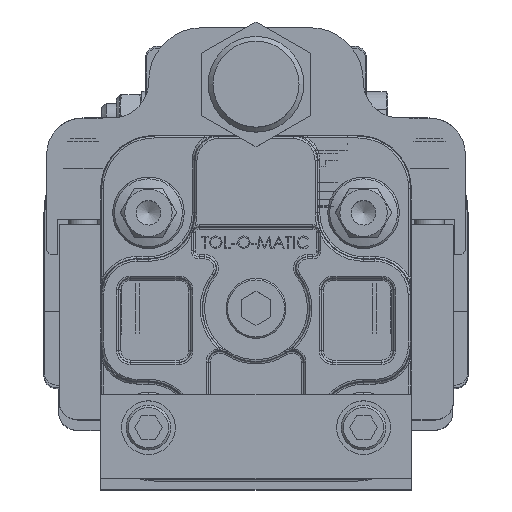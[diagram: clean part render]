
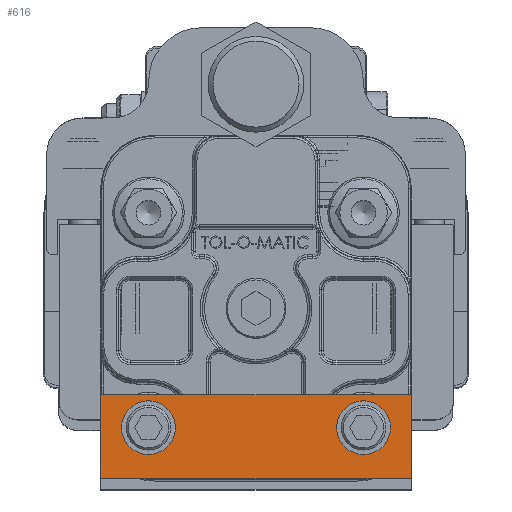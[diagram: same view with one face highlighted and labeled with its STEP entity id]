
A CAD part, top view. The second image highlights one B-rep face of the part: STEP entity #616.
In plain terms, the highlighted planar face has unit normal (0, 0, 1) as drawn and (0, 0, -1) by its records, which use the part's own axes.
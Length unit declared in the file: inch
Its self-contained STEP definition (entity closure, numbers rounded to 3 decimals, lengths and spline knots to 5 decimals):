
#616 = ADVANCED_FACE ( 'NONE', ( #25922, #11386, #16616 ), #11988, .T. ) ;
#1006 = DIRECTION ( 'NONE',  ( -1., 0., 0. ) ) ;
#2084 = DIRECTION ( 'NONE',  ( -1., 0., 0. ) ) ;
#2395 = CARTESIAN_POINT ( 'NONE',  ( 1.625, -0.531, -1. ) ) ;
#2949 = AXIS2_PLACEMENT_3D ( 'NONE', #28576, #39099, #1006 ) ;
#3477 = DIRECTION ( 'NONE',  ( -1., 0., 0. ) ) ;
#4117 = ORIENTED_EDGE ( 'NONE', *, *, #28281, .F. ) ;
#7229 = ORIENTED_EDGE ( 'NONE', *, *, #20912, .T. ) ;
#7257 = CARTESIAN_POINT ( 'NONE',  ( 1.625, 0.344, -1. ) ) ;
#7360 = VECTOR ( 'NONE', #28064, 39.37008 ) ;
#8402 = VERTEX_POINT ( 'NONE', #55516 ) ;
#9170 = CARTESIAN_POINT ( 'NONE',  ( 1.625, 0.344, -1. ) ) ;
#11386 = FACE_BOUND ( 'NONE', #12075, .T. ) ;
#11988 = PLANE ( 'NONE',  #37659 ) ;
#12075 = EDGE_LOOP ( 'NONE', ( #4117 ) ) ;
#13039 = CARTESIAN_POINT ( 'NONE',  ( 1.125, 0., -1. ) ) ;
#14380 = DIRECTION ( 'NONE',  ( 0., 1., 0. ) ) ;
#14543 = ORIENTED_EDGE ( 'NONE', *, *, #52373, .T. ) ;
#15233 = ORIENTED_EDGE ( 'NONE', *, *, #60843, .F. ) ;
#15322 = EDGE_LOOP ( 'NONE', ( #15233 ) ) ;
#15662 = ORIENTED_EDGE ( 'NONE', *, *, #24105, .T. ) ;
#16616 = FACE_OUTER_BOUND ( 'NONE', #26007, .T. ) ;
#16722 = VERTEX_POINT ( 'NONE', #30693 ) ;
#20912 = EDGE_CURVE ( 'NONE', #56050, #30574, #47841, .T. ) ;
#21479 = LINE ( 'NONE', #7257, #54092 ) ;
#22028 = CARTESIAN_POINT ( 'NONE',  ( 1.625, -0.531, -1. ) ) ;
#24105 = EDGE_CURVE ( 'NONE', #30574, #42644, #21479, .T. ) ;
#25298 = CARTESIAN_POINT ( 'NONE',  ( -1.625, -0.531, -1. ) ) ;
#25922 = FACE_BOUND ( 'NONE', #15322, .T. ) ;
#26007 = EDGE_LOOP ( 'NONE', ( #32857, #14543, #7229, #15662 ) ) ;
#28064 = DIRECTION ( 'NONE',  ( 0., -1., 0. ) ) ;
#28281 = EDGE_CURVE ( 'NONE', #8402, #8402, #56809, .T. ) ;
#28370 = LINE ( 'NONE', #9170, #7360 ) ;
#28576 = CARTESIAN_POINT ( 'NONE',  ( -1.125, 0., -1. ) ) ;
#28612 = CIRCLE ( 'NONE', #2949, 0.28125 ) ;
#28622 = EDGE_CURVE ( 'NONE', #42644, #16722, #28370, .T. ) ;
#30381 = VECTOR ( 'NONE', #31936, 39.37008 ) ;
#30574 = VERTEX_POINT ( 'NONE', #59139 ) ;
#30693 = CARTESIAN_POINT ( 'NONE',  ( 1.625, -0.531, -1. ) ) ;
#31335 = LINE ( 'NONE', #22028, #30381 ) ;
#31936 = DIRECTION ( 'NONE',  ( -1., 0., 0. ) ) ;
#32857 = ORIENTED_EDGE ( 'NONE', *, *, #28622, .T. ) ;
#34883 = CARTESIAN_POINT ( 'NONE',  ( 1.625, 0.344, -1. ) ) ;
#35135 = VERTEX_POINT ( 'NONE', #54062 ) ;
#37620 = CARTESIAN_POINT ( 'NONE',  ( -1.625, 0.344, -1. ) ) ;
#37659 = AXIS2_PLACEMENT_3D ( 'NONE', #2395, #44513, #2084 ) ;
#39099 = DIRECTION ( 'NONE',  ( 0., 0., -1. ) ) ;
#39973 = AXIS2_PLACEMENT_3D ( 'NONE', #13039, #45899, #3477 ) ;
#42644 = VERTEX_POINT ( 'NONE', #34883 ) ;
#44513 = DIRECTION ( 'NONE',  ( 0., 0., -1. ) ) ;
#45899 = DIRECTION ( 'NONE',  ( 0., 0., -1. ) ) ;
#47841 = LINE ( 'NONE', #37620, #56965 ) ;
#52373 = EDGE_CURVE ( 'NONE', #16722, #56050, #31335, .T. ) ;
#54062 = CARTESIAN_POINT ( 'NONE',  ( -1.40625, 0., -1. ) ) ;
#54092 = VECTOR ( 'NONE', #54673, 39.37008 ) ;
#54673 = DIRECTION ( 'NONE',  ( 1., 0., 0. ) ) ;
#55516 = CARTESIAN_POINT ( 'NONE',  ( 0.84375, 0., -1. ) ) ;
#56050 = VERTEX_POINT ( 'NONE', #25298 ) ;
#56809 = CIRCLE ( 'NONE', #39973, 0.28125 ) ;
#56965 = VECTOR ( 'NONE', #14380, 39.37008 ) ;
#59139 = CARTESIAN_POINT ( 'NONE',  ( -1.625, 0.344, -1. ) ) ;
#60843 = EDGE_CURVE ( 'NONE', #35135, #35135, #28612, .T. ) ;
